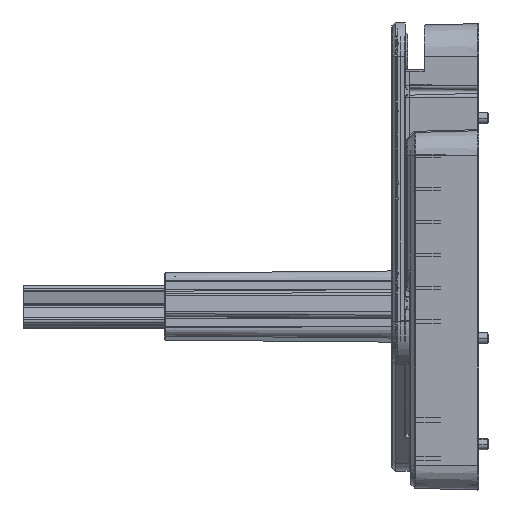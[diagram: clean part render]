
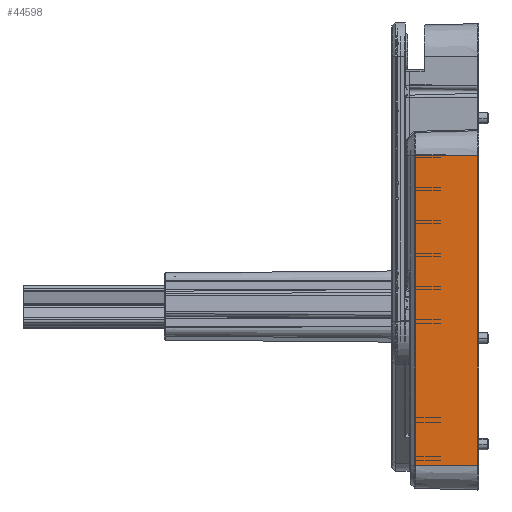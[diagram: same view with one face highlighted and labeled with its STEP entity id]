
A CAD part, front view. The second image highlights one B-rep face of the part: STEP entity #44598.
In plain terms, the highlighted planar face has unit normal (-0.026, -1, 0).
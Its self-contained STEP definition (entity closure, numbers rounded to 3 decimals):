
#6722=DIRECTION('',(0.,0.,1.));
#6723=VECTOR('',#6722,140.5);
#6724=CARTESIAN_POINT('',(-18.301,-13.005,-199.5));
#6725=LINE('',#6724,#6723);
#6726=DIRECTION('',(-1.,0.026,0.));
#6727=VECTOR('',#6726,28.503);
#6728=CARTESIAN_POINT('',(10.192,-13.751,-59.));
#6729=LINE('',#6728,#6727);
#6730=DIRECTION('',(0.,0.,1.));
#6731=VECTOR('',#6730,140.5);
#6732=CARTESIAN_POINT('',(10.192,-13.751,-199.5));
#6733=LINE('',#6732,#6731);
#6734=DIRECTION('',(1.,-0.026,0.));
#6735=VECTOR('',#6734,28.503);
#6736=CARTESIAN_POINT('',(-18.301,-13.005,-199.5));
#6737=LINE('',#6736,#6735);
#30553=CARTESIAN_POINT('',(10.192,-13.751,-59.));
#30555=VERTEX_POINT('',#30553);
#30559=CARTESIAN_POINT('',(10.192,-13.751,-199.5));
#30560=VERTEX_POINT('',#30559);
#30621=CARTESIAN_POINT('',(-18.301,-13.005,-59.));
#30622=VERTEX_POINT('',#30621);
#30627=CARTESIAN_POINT('',(-18.301,-13.005,-199.5));
#30628=VERTEX_POINT('',#30627);
#44585=CARTESIAN_POINT('',(-18.5,-13.,-59.));
#44586=DIRECTION('',(0.026,1.,0.));
#44587=DIRECTION('',(0.,0.,-1.));
#44588=AXIS2_PLACEMENT_3D('',#44585,#44586,#44587);
#44589=PLANE('',#44588);
#44590=ORIENTED_EDGE('',*,*,#44568,.T.);
#44592=ORIENTED_EDGE('',*,*,#44591,.F.);
#44593=ORIENTED_EDGE('',*,*,#43857,.F.);
#44595=ORIENTED_EDGE('',*,*,#44594,.F.);
#44596=EDGE_LOOP('',(#44590,#44592,#44593,#44595));
#44597=FACE_OUTER_BOUND('',#44596,.F.);
#43857=EDGE_CURVE('',#30560,#30555,#6733,.T.);
#44568=EDGE_CURVE('',#30628,#30622,#6725,.T.);
#44591=EDGE_CURVE('',#30555,#30622,#6729,.T.);
#44594=EDGE_CURVE('',#30628,#30560,#6737,.T.);
#44598=ADVANCED_FACE('',(#44597),#44589,.F.);
